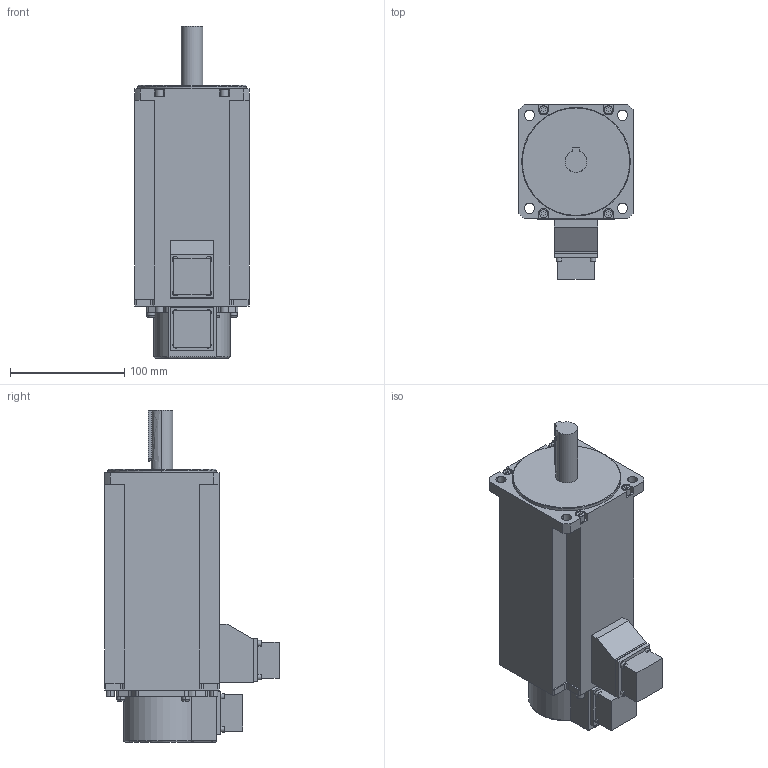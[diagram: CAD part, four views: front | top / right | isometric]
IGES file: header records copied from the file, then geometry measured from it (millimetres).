
Start section:  PTC IGES file: rsms_25ask3-070830.igs
Global section: file name: rsms_25ask3-070830.igs; native system: Pro/ENGINEER by Parametric Technology Corporation; preprocessor: 2004440; author: Administrator; organization: Unknown; date: 070830.160643; units: millimetre
Bounding box: 100 x 152.7 x 290.5 mm (x, y, z)
Volume: 2022298.2 mm3; surface area: 125714.5 mm2
Topology: 1 solids, 1 shells, 270 faces, 708 edges, 464 vertices
Faces by surface type: bspline 171, revolution 99
